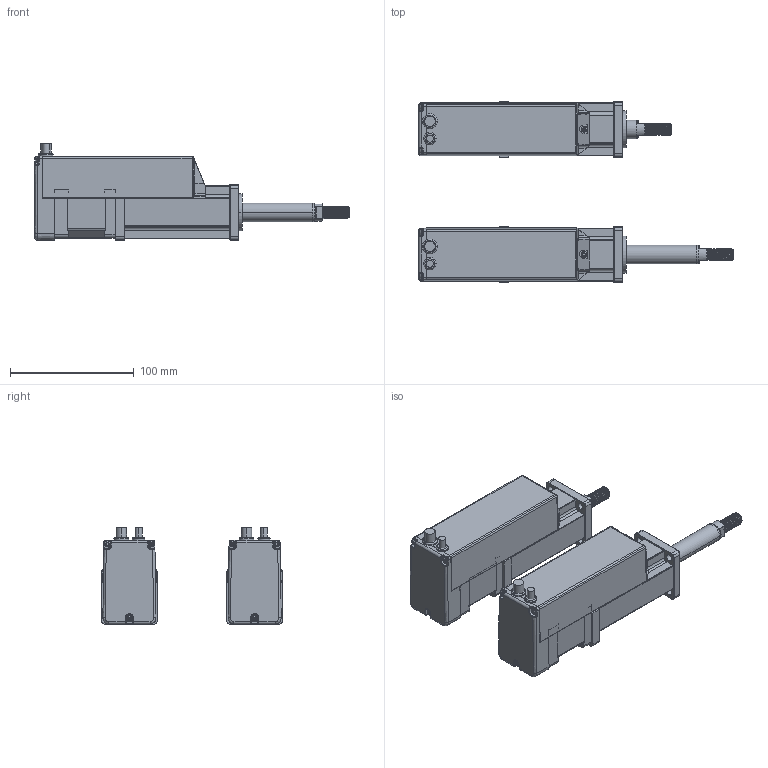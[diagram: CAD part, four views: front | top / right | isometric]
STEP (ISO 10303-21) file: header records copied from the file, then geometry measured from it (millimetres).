
FILE_DESCRIPTION(('STEP AP214'),'1');
FILE_NAME('K:\外形図\3D_DAD2\SCN5\tmp0.step',' ',(' '),(' '),'XStep 1.0',' ',' ');
FILE_SCHEMA(('automotive_design'));
Length unit declared in the file: millimetre
Bounding box: 254.5 x 146.36 x 78 mm (x, y, z)
Volume: 852400.5 mm3; surface area: 169150.1 mm2
Topology: 40 solids, 40 shells, 1020 faces, 2648 edges, 1702 vertices
Faces by surface type: plane 424, cylinder 400, bspline 126, torus 58, sphere 8, cone 4
Entity records: 156260 total; most frequent: CARTESIAN_POINT 122392, ORIENTED_EDGE 5280, DIRECTION 5164, EDGE_CURVE 2640, AXIS2_PLACEMENT_3D 1923, VERTEX_POINT 1702, LINE 1318, VECTOR 1318
